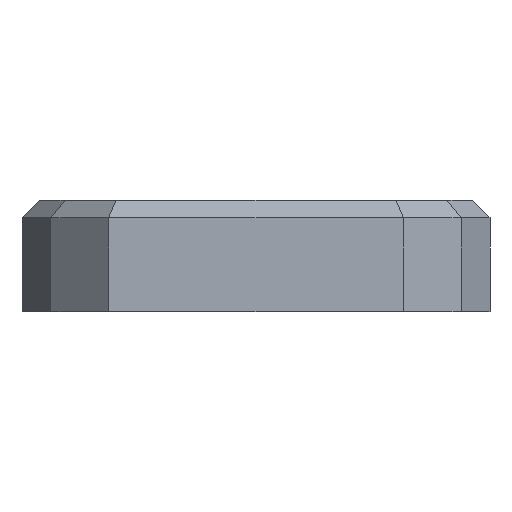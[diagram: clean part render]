
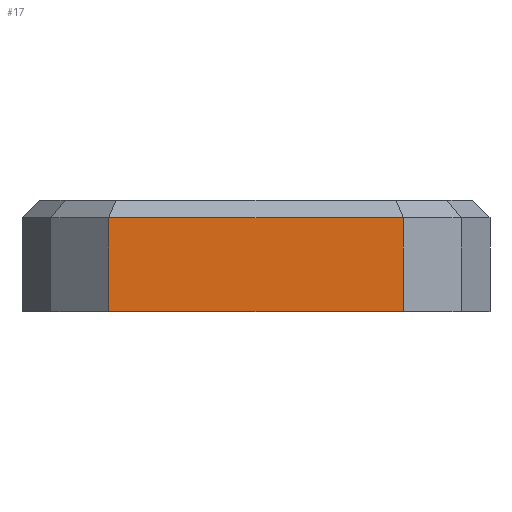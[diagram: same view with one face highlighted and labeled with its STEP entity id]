
A CAD part, front view. The second image highlights one B-rep face of the part: STEP entity #17.
In plain terms, the highlighted planar face has unit normal (0, -1, 0).
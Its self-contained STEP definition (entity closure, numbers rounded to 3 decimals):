
#17 = ADVANCED_FACE('',(#18),#32,.F.);
#18 = FACE_BOUND('',#19,.F.);
#19 = EDGE_LOOP('',(#20,#55,#83,#111));
#20 = ORIENTED_EDGE('',*,*,#21,.T.);
#21 = EDGE_CURVE('',#22,#24,#26,.T.);
#22 = VERTEX_POINT('',#23);
#23 = CARTESIAN_POINT('',(-10.2,96.,0.3));
#24 = VERTEX_POINT('',#25);
#25 = CARTESIAN_POINT('',(-10.2,96.,6.8));
#26 = SURFACE_CURVE('',#27,(#31,#43),.PCURVE_S1.);
#27 = LINE('',#28,#29);
#28 = CARTESIAN_POINT('',(-10.2,96.,0.3));
#29 = VECTOR('',#30,1.);
#30 = DIRECTION('',(0.,0.,1.));
#31 = PCURVE('',#32,#37);
#32 = PLANE('',#33);
#33 = AXIS2_PLACEMENT_3D('',#34,#35,#36);
#34 = CARTESIAN_POINT('',(-10.2,96.,0.3));
#35 = DIRECTION('',(0.,1.,0.));
#36 = DIRECTION('',(1.,0.,0.));
#37 = DEFINITIONAL_REPRESENTATION('',(#38),#42);
#38 = LINE('',#39,#40);
#39 = CARTESIAN_POINT('',(0.,0.));
#40 = VECTOR('',#41,1.);
#41 = DIRECTION('',(0.,-1.));
#42 = ( GEOMETRIC_REPRESENTATION_CONTEXT(2) 
PARAMETRIC_REPRESENTATION_CONTEXT() REPRESENTATION_CONTEXT('2D SPACE',''
  ) );
#43 = PCURVE('',#44,#49);
#44 = PLANE('',#45);
#45 = AXIS2_PLACEMENT_3D('',#46,#47,#48);
#46 = CARTESIAN_POINT('',(-14.2,100.,0.3));
#47 = DIRECTION('',(0.707,0.707,-0.));
#48 = DIRECTION('',(0.707,-0.707,0.));
#49 = DEFINITIONAL_REPRESENTATION('',(#50),#54);
#50 = LINE('',#51,#52);
#51 = CARTESIAN_POINT('',(5.657,0.));
#52 = VECTOR('',#53,1.);
#53 = DIRECTION('',(0.,-1.));
#54 = ( GEOMETRIC_REPRESENTATION_CONTEXT(2) 
PARAMETRIC_REPRESENTATION_CONTEXT() REPRESENTATION_CONTEXT('2D SPACE',''
  ) );
#55 = ORIENTED_EDGE('',*,*,#56,.T.);
#56 = EDGE_CURVE('',#24,#57,#59,.T.);
#57 = VERTEX_POINT('',#58);
#58 = CARTESIAN_POINT('',(10.2,96.,6.8));
#59 = SURFACE_CURVE('',#60,(#64,#71),.PCURVE_S1.);
#60 = LINE('',#61,#62);
#61 = CARTESIAN_POINT('',(-10.2,96.,6.8));
#62 = VECTOR('',#63,1.);
#63 = DIRECTION('',(1.,0.,0.));
#64 = PCURVE('',#32,#65);
#65 = DEFINITIONAL_REPRESENTATION('',(#66),#70);
#66 = LINE('',#67,#68);
#67 = CARTESIAN_POINT('',(0.,-6.5));
#68 = VECTOR('',#69,1.);
#69 = DIRECTION('',(1.,0.));
#70 = ( GEOMETRIC_REPRESENTATION_CONTEXT(2) 
PARAMETRIC_REPRESENTATION_CONTEXT() REPRESENTATION_CONTEXT('2D SPACE',''
  ) );
#71 = PCURVE('',#72,#77);
#72 = PLANE('',#73);
#73 = AXIS2_PLACEMENT_3D('',#74,#75,#76);
#74 = CARTESIAN_POINT('',(-10.2,96.6,7.4));
#75 = DIRECTION('',(0.,0.707,-0.707));
#76 = DIRECTION('',(-1.,-0.,-0.));
#77 = DEFINITIONAL_REPRESENTATION('',(#78),#82);
#78 = LINE('',#79,#80);
#79 = CARTESIAN_POINT('',(-0.,-0.849));
#80 = VECTOR('',#81,1.);
#81 = DIRECTION('',(-1.,0.));
#82 = ( GEOMETRIC_REPRESENTATION_CONTEXT(2) 
PARAMETRIC_REPRESENTATION_CONTEXT() REPRESENTATION_CONTEXT('2D SPACE',''
  ) );
#83 = ORIENTED_EDGE('',*,*,#84,.F.);
#84 = EDGE_CURVE('',#85,#57,#87,.T.);
#85 = VERTEX_POINT('',#86);
#86 = CARTESIAN_POINT('',(10.2,96.,0.3));
#87 = SURFACE_CURVE('',#88,(#92,#99),.PCURVE_S1.);
#88 = LINE('',#89,#90);
#89 = CARTESIAN_POINT('',(10.2,96.,0.3));
#90 = VECTOR('',#91,1.);
#91 = DIRECTION('',(0.,0.,1.));
#92 = PCURVE('',#32,#93);
#93 = DEFINITIONAL_REPRESENTATION('',(#94),#98);
#94 = LINE('',#95,#96);
#95 = CARTESIAN_POINT('',(20.4,0.));
#96 = VECTOR('',#97,1.);
#97 = DIRECTION('',(0.,-1.));
#98 = ( GEOMETRIC_REPRESENTATION_CONTEXT(2) 
PARAMETRIC_REPRESENTATION_CONTEXT() REPRESENTATION_CONTEXT('2D SPACE',''
  ) );
#99 = PCURVE('',#100,#105);
#100 = PLANE('',#101);
#101 = AXIS2_PLACEMENT_3D('',#102,#103,#104);
#102 = CARTESIAN_POINT('',(10.2,96.,0.3));
#103 = DIRECTION('',(-0.707,0.707,0.));
#104 = DIRECTION('',(0.707,0.707,0.));
#105 = DEFINITIONAL_REPRESENTATION('',(#106),#110);
#106 = LINE('',#107,#108);
#107 = CARTESIAN_POINT('',(0.,0.));
#108 = VECTOR('',#109,1.);
#109 = DIRECTION('',(0.,-1.));
#110 = ( GEOMETRIC_REPRESENTATION_CONTEXT(2) 
PARAMETRIC_REPRESENTATION_CONTEXT() REPRESENTATION_CONTEXT('2D SPACE',''
  ) );
#111 = ORIENTED_EDGE('',*,*,#112,.F.);
#112 = EDGE_CURVE('',#22,#85,#113,.T.);
#113 = SURFACE_CURVE('',#114,(#118,#125),.PCURVE_S1.);
#114 = LINE('',#115,#116);
#115 = CARTESIAN_POINT('',(-10.2,96.,0.3));
#116 = VECTOR('',#117,1.);
#117 = DIRECTION('',(1.,0.,0.));
#118 = PCURVE('',#32,#119);
#119 = DEFINITIONAL_REPRESENTATION('',(#120),#124);
#120 = LINE('',#121,#122);
#121 = CARTESIAN_POINT('',(0.,0.));
#122 = VECTOR('',#123,1.);
#123 = DIRECTION('',(1.,0.));
#124 = ( GEOMETRIC_REPRESENTATION_CONTEXT(2) 
PARAMETRIC_REPRESENTATION_CONTEXT() REPRESENTATION_CONTEXT('2D SPACE',''
  ) );
#125 = PCURVE('',#126,#131);
#126 = PLANE('',#127);
#127 = AXIS2_PLACEMENT_3D('',#128,#129,#130);
#128 = CARTESIAN_POINT('',(0.,121.255,0.3));
#129 = DIRECTION('',(0.,0.,1.));
#130 = DIRECTION('',(1.,0.,-0.));
#131 = DEFINITIONAL_REPRESENTATION('',(#132),#136);
#132 = LINE('',#133,#134);
#133 = CARTESIAN_POINT('',(-10.2,-25.255));
#134 = VECTOR('',#135,1.);
#135 = DIRECTION('',(1.,0.));
#136 = ( GEOMETRIC_REPRESENTATION_CONTEXT(2) 
PARAMETRIC_REPRESENTATION_CONTEXT() REPRESENTATION_CONTEXT('2D SPACE',''
  ) );
